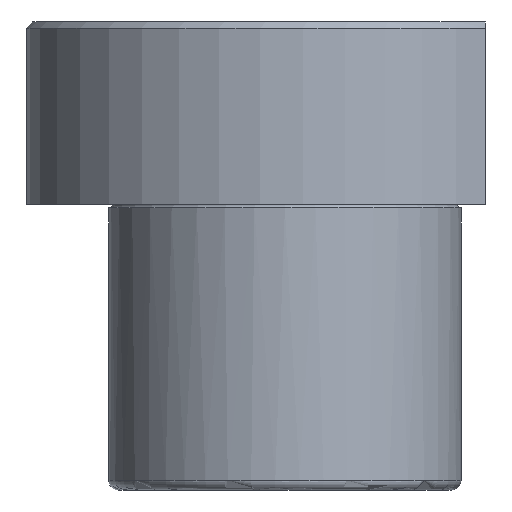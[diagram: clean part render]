
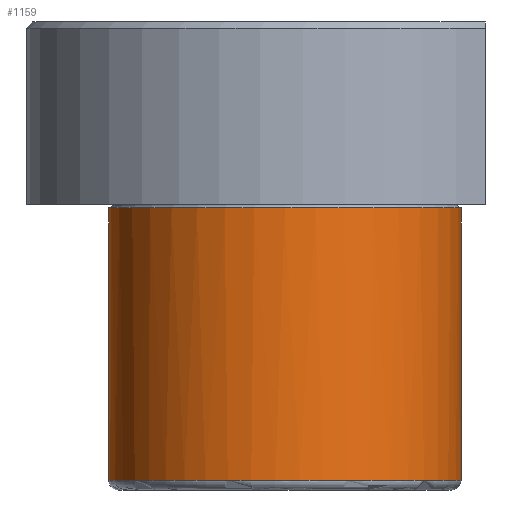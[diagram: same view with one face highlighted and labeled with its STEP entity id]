
A CAD part, front view. The second image highlights one B-rep face of the part: STEP entity #1159.
In plain terms, the highlighted cylindrical face has radius 29 mm (diameter 58 mm), a partial arc.
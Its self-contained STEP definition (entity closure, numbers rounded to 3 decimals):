
#971=CARTESIAN_POINT('Vertex',(29.,0.,-0.6)) ;
#973=CARTESIAN_POINT('Vertex',(-29.,0.,-0.6)) ;
#998=CARTESIAN_POINT('Axis2P3D Location',(0.,0.,-0.6)) ;
#1105=CARTESIAN_POINT('Line Origine',(-29.,0.,30.)) ;
#1109=CARTESIAN_POINT('Vertex',(-29.,0.,-45.4)) ;
#1112=CARTESIAN_POINT('Line Origine',(29.,0.,30.)) ;
#1116=CARTESIAN_POINT('Vertex',(29.,0.,-45.4)) ;
#1131=CARTESIAN_POINT('Axis2P3D Location',(0.,0.,30.)) ;
#1137=CARTESIAN_POINT('Control Point',(-29.,0.,-45.4)) ;
#1138=CARTESIAN_POINT('Control Point',(-29.,-4.555,-45.4)) ;
#1139=CARTESIAN_POINT('Control Point',(-28.106,-9.111,-45.4)) ;
#1140=CARTESIAN_POINT('Control Point',(-26.316,-13.431,-45.4)) ;
#1141=CARTESIAN_POINT('Control Point',(-21.139,-21.139,-45.4)) ;
#1142=CARTESIAN_POINT('Control Point',(-13.431,-26.316,-45.4)) ;
#1143=CARTESIAN_POINT('Control Point',(-9.111,-28.106,-45.4)) ;
#1144=CARTESIAN_POINT('Control Point',(0.,-29.894,-45.4)) ;
#1145=CARTESIAN_POINT('Control Point',(9.111,-28.106,-45.4)) ;
#1146=CARTESIAN_POINT('Control Point',(13.431,-26.316,-45.4)) ;
#1147=CARTESIAN_POINT('Control Point',(21.139,-21.139,-45.4)) ;
#1148=CARTESIAN_POINT('Control Point',(26.316,-13.431,-45.4)) ;
#1149=CARTESIAN_POINT('Control Point',(28.106,-9.111,-45.4)) ;
#1150=CARTESIAN_POINT('Control Point',(29.,-4.555,-45.4)) ;
#1151=CARTESIAN_POINT('Control Point',(29.,0.,-45.4)) ;
#999=DIRECTION('Axis2P3D Direction',(0.,-0.,1.)) ;
#1106=DIRECTION('Vector Direction',(0.,0.,-1.)) ;
#1113=DIRECTION('Vector Direction',(0.,0.,-1.)) ;
#1132=DIRECTION('Axis2P3D Direction',(0.,0.,-1.)) ;
#1133=DIRECTION('Axis2P3D XDirection',(1.,0.,0.)) ;
#1000=AXIS2_PLACEMENT_3D('Circle Axis2P3D',#998,#999,$) ;
#1134=AXIS2_PLACEMENT_3D('Cylinder Axis2P3D',#1131,#1132,#1133) ;
#1154=ORIENTED_EDGE('',*,*,#1118,.T.) ;
#1155=ORIENTED_EDGE('',*,*,#1002,.F.) ;
#1156=ORIENTED_EDGE('',*,*,#1111,.T.) ;
#1157=ORIENTED_EDGE('',*,*,#1152,.T.) ;
#1107=VECTOR('Line Direction',#1106,1.) ;
#1114=VECTOR('Line Direction',#1113,1.) ;
#1159=ADVANCED_FACE('737-40',(#1158),#1135,.T.) ;
#1136=B_SPLINE_CURVE_WITH_KNOTS('',5,(#1137,#1138,#1139,#1140,#1141,#1142,#1143,#1144,#1145,#1146,#1147,#1148,#1149,#1150,#1151),.UNSPECIFIED.,.F.,.U.,(6,3,3,3,6),(-45.553,-22.777,0.,22.777,45.553),.UNSPECIFIED.) ;
#1001=CIRCLE('generated circle',#1000,29.) ;
#1135=CYLINDRICAL_SURFACE('generated cylinder',#1134,29.) ;
#1002=EDGE_CURVE('',#974,#972,#1001,.T.) ;
#1111=EDGE_CURVE('',#974,#1110,#1108,.T.) ;
#1118=EDGE_CURVE('',#1117,#972,#1115,.F.) ;
#1152=EDGE_CURVE('',#1110,#1117,#1136,.T.) ;
#1153=EDGE_LOOP('',(#1154,#1155,#1156,#1157)) ;
#1158=FACE_OUTER_BOUND('',#1153,.T.) ;
#1108=LINE('Line',#1105,#1107) ;
#1115=LINE('Line',#1112,#1114) ;
#972=VERTEX_POINT('',#971) ;
#974=VERTEX_POINT('',#973) ;
#1110=VERTEX_POINT('',#1109) ;
#1117=VERTEX_POINT('',#1116) ;
